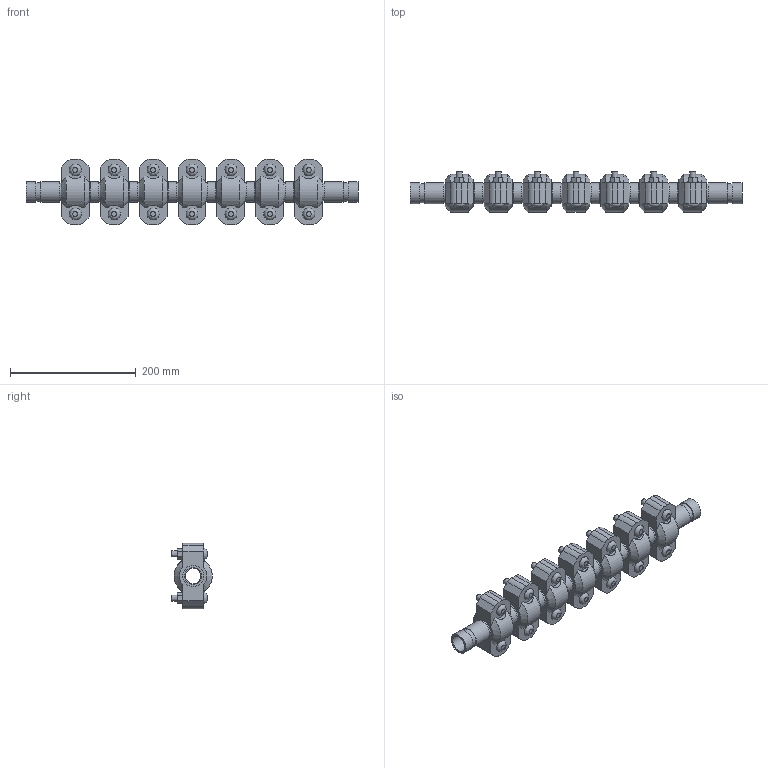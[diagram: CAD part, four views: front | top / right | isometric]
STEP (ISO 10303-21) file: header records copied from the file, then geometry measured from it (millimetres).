
FILE_DESCRIPTION(/* description */ ('VIC EXPANSION JOINT 7 COUPLINGS EXPANDED STYLE 155 (OGS)','CAx-IF Rec.Pracs.---Representation and Presentation of Product Manufacturing Information (PMI)---4.0---2014-10-13'),/* implementation_level */ '2;1');
FILE_NAME(/* name */ 'C:\Users\kkamble\AppData\Roaming\Autodesk\ApplicationPlugins\Victaulic.Temp\A179\Victaulic_IPS_Expansion Joint_Expanded_7 Couplings_Style 155 (OGS)_1 (25).stp',/* time_stamp */ '2021-06-27T00:06:19+02:00',/* author */ ('kkamble'),/* organization */ ('Victaulic'),/* preprocessor_version */ 'ST-DEVELOPER v17.2',/* originating_system */ 'Autodesk Inventor 2019',/* authorisation */ '');
FILE_SCHEMA (('AP242_MANAGED_MODEL_BASED_3D_ENGINEERING_MIM_LF { 1 0 10303 442 1 1 4 }'));
Length unit declared in the file: inch
Products named in the file (4): 155-01.0; Nipple-01.0; Nipple-01.0_1; 077-01.0
Assembly tree (15 placements, depth 2):
  155-01.0
    Nipple-01.0  x2
    Nipple-01.0_1  x6
    077-01.0  x7
Bounding box: 528.57 x 64.33 x 104.65 mm (x, y, z)
Volume: 1165765.2 mm3; surface area: 312292.5 mm2
Topology: 15 solids, 29 shells, 523 faces, 1255 edges, 878 vertices
Faces by surface type: plane 300, cylinder 181, cone 28, bspline 14
Full cylindrical faces by diameter (mm): 9.525 x28, 11.43 x14, 24.511 x7, 26.645 x8, 30.226 x16, 33.401 x38
Entity records: 3017 total; most frequent: CARTESIAN_POINT 575, DIRECTION 493, ORIENTED_EDGE 410, EDGE_CURVE 205, AXIS2_PLACEMENT_3D 198, VERTEX_POINT 146, EDGE_LOOP 111, LINE 97
